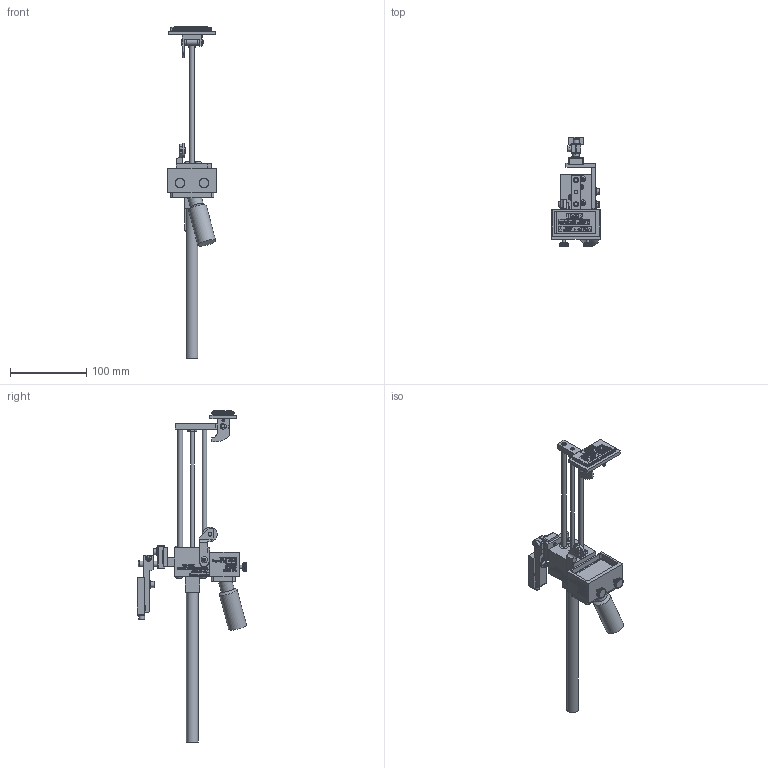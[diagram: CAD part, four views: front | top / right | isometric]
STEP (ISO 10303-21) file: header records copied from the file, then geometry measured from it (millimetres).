
FILE_DESCRIPTION((''),'2;1');
FILE_NAME('C:\Documents and Settings\Ron\My Documents\Inventor\Sprinter Drawing\Machines in Inventor\Model 816\Type\Ext Str\E4\Brkt\Ext\Model 816 ES 4 Ext w brkt.stp','2009-01-27T10:29:35',('Ron'),(''),'Autodesk Inventor 2008','Autodesk Inventor 2008','');
FILE_SCHEMA(('AUTOMOTIVE_DESIGN { 1 0 10303 214 1 1 1 1 }'));
Length unit declared in the file: inch
Products named in the file (1): Model 816  ES 4 Ext w brkt
Bounding box: 63.5 x 144.17 x 436.7 mm (x, y, z)
Volume: 296902.3 mm3; surface area: 100854.6 mm2
Topology: 26 solids, 26 shells, 6740 faces, 16801 edges, 10428 vertices
Faces by surface type: plane 4663, bspline 1457, cylinder 535, cone 66, torus 15, sphere 4
Full cylindrical faces by diameter (mm): 2.54 x2, 2.845 x1, 3.175 x1, 4.064 x2, 4.166 x3, 4.699 x3, 4.75 x2, 4.826 x9, 5.08 x1, 5.156 x3, 6.223 x2, 6.325 x2, 6.35 x2, 6.604 x1, 6.68 x1, 6.858 x2, 7.62 x2, 7.925 x11, 7.938 x1, 9.017 x1, 9.525 x2, 10.312 x4, 10.922 x1, 15.494 x1, 17.526 x1, 19.05 x1, 24.13 x1
Entity records: 210675 total; most frequent: CARTESIAN_POINT 58158, ORIENTED_EDGE 32980, DIRECTION 25543, EDGE_CURVE 16490, VECTOR 12249, LINE 12249, VERTEX_POINT 10323, EDGE_LOOP 7369
